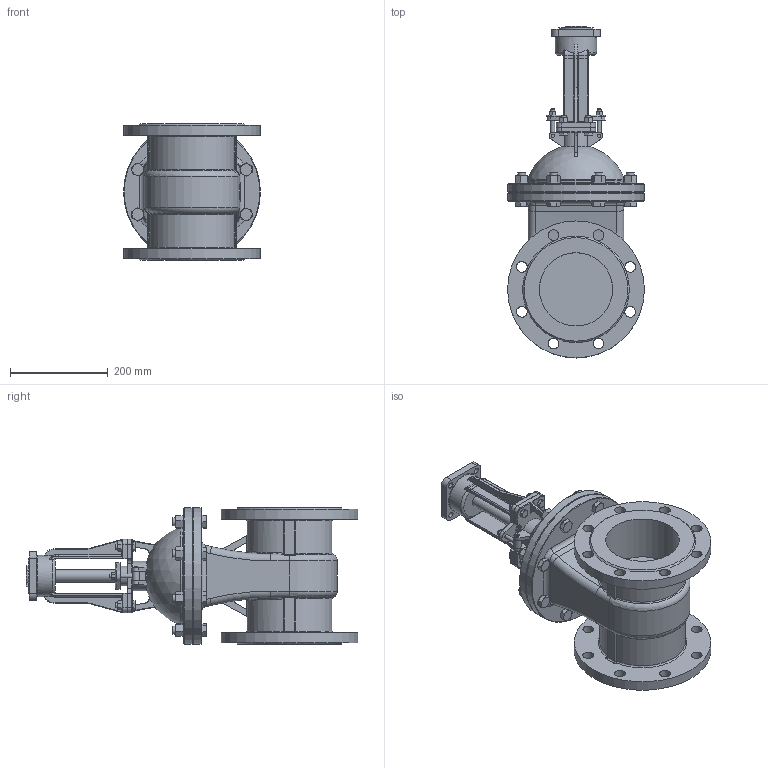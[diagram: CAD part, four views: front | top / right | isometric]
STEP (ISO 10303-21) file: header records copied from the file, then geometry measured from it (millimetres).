
FILE_DESCRIPTION(('STEP AP242'), '1');
FILE_NAME('GVWR3535M-2W-F-ÎÑÒ Çàäâèæêà êëèíîâàÿ ñ âûäâèæíûì øòîêîì Äó150 Ðó16', '2026-06-04T21:03:27', ('R2D2'), (''), 'C3D Converter', 'C3D Toolkit', '');
FILE_SCHEMA(('AP242_MANAGED_MODEL_BASED_3D_ENGINEERING_MIM_LF { 1 0 10303 442 1 1 4 }'));
Length unit declared in the file: millimetre
Products named in the file (1): GVWR3535M-2W-F-ОСТ
Bounding box: 280 x 679 x 280 mm (x, y, z)
Volume: 12426343.6 mm3; surface area: 915331.5 mm2
Topology: 1 solids, 1 shells, 1286 faces, 3203 edges, 1966 vertices
Faces by surface type: plane 529, cone 260, cylinder 233, extrusion 103, bspline 79, torus 73, sphere 5, revolution 4
Full cylindrical faces by diameter (mm): 7 x4, 8 x4, 10 x8, 12 x4, 15 x2, 16 x20, 22 x16, 24 x4, 25 x2, 30 x1, 32 x1, 40 x1, 50 x1, 52 x1, 70 x1, 84.405 x1, 150 x2, 200 x2, 280 x4
Entity records: 72342 total; most frequent: CARTESIAN_POINT 33363, ORIENTED_EDGE 6156, DIRECTION 5286, EDGE_CURVE 3078, AXIS2_PLACEMENT_3D 2019, VERTEX_POINT 1958, EDGE_LOOP 1540, FACE_BOUND 1402
